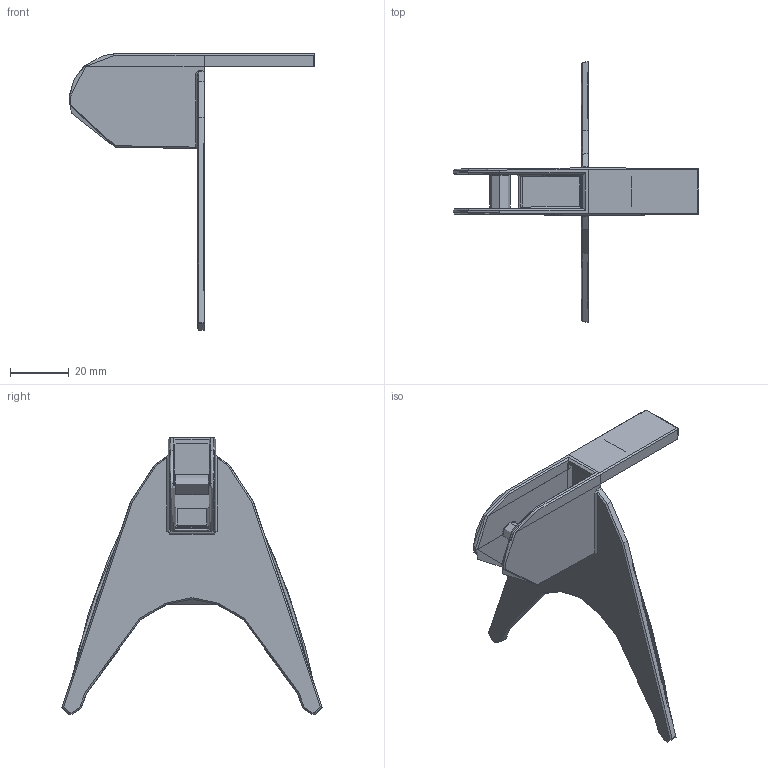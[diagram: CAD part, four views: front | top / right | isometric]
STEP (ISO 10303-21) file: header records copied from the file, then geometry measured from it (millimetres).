
FILE_DESCRIPTION(/* description */ (''),/* implementation_level */ '2;1');
FILE_NAME(/* name */ 'Joint End Cap',/* time_stamp */ '2018-11-07T16:49:05+01:00',/* author */ (''),/* organization */ (''),/* preprocessor_version */ 'ST-DEVELOPER v15',/* originating_system */ '',/* authorisation */ '');
FILE_SCHEMA (('AUTOMOTIVE_DESIGN'));
Length unit declared in the file: millimetre
Products named in the file (1): Document
Bounding box: 84.05 x 88.96 x 94.65 mm (x, y, z)
Topology: 0 solids, 385 shells, 385 faces, 2208 edges, 2179 vertices
Faces by surface type: bspline 288, plane 97
Entity records: 38995 total; most frequent: CARTESIAN_POINT 25362, ORIENTED_EDGE 2242, EDGE_CURVE 2242, VERTEX_POINT 2210, B_SPLINE_CURVE_WITH_KNOTS 1285, EDGE_LOOP 394, COLOUR_RGB 378, FILL_AREA_STYLE_COLOUR 378
